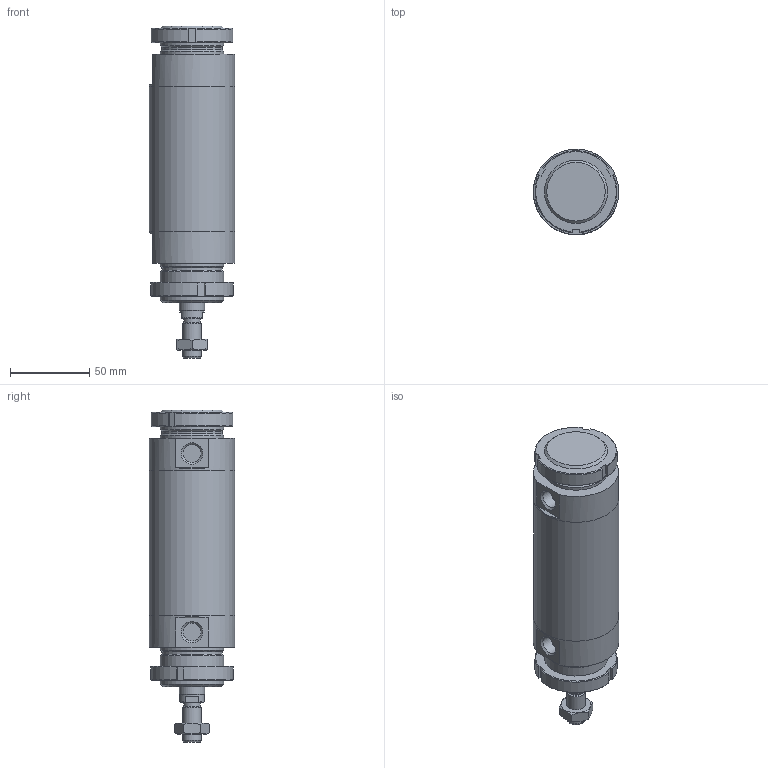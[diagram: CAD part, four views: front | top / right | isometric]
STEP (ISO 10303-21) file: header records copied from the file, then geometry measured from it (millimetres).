
FILE_DESCRIPTION(/* description */ (''),/* implementation_level */ '2;1');
FILE_NAME(/* name */ 'I:\Area Tecnica\Documenti\A-Manieri\_Inventor\12X\12X#C_###_####_#_#\12XAC_050_0050_#_#.stp',/* time_stamp */ '2015-04-28T15:19:35+02:00',/* author */ ('maniean1'),/* organization */ ('Pneumax S.p.A.'),/* preprocessor_version */ 'ST-DEVELOPER v15.2',/* originating_system */ 'Autodesk Inventor 2014',/* authorisation */ '');
FILE_SCHEMA (('AUTOMOTIVE_DESIGN { 1 0 10303 214 3 1 1 }'));
Length unit declared in the file: millimetre
Products named in the file (7): C1250_619-0050; 12X50_604; S12X50_0050; 12X_50_11; 12X50_620; G12X_050_05; 12XAC_050_0050_#_#
Bounding box: 54 x 54 x 210 mm (x, y, z)
Volume: 287811.2 mm3; surface area: 80556.3 mm2
Topology: 7 solids, 7 shells, 106 faces, 240 edges, 154 vertices
Faces by surface type: plane 52, cylinder 27, cone 27
Full cylindrical faces by diameter (mm): 10.2 x1, 11.4 x2, 12 x2, 14 x1, 15.6 x1, 16 x1, 38.2 x2, 40 x6, 50 x2, 54 x3
Entity records: 2243 total; most frequent: CARTESIAN_POINT 413, DIRECTION 382, ORIENTED_EDGE 292, AXIS2_PLACEMENT_3D 165, EDGE_CURVE 146, EDGE_LOOP 132, VERTEX_POINT 112, ADVANCED_FACE 85
